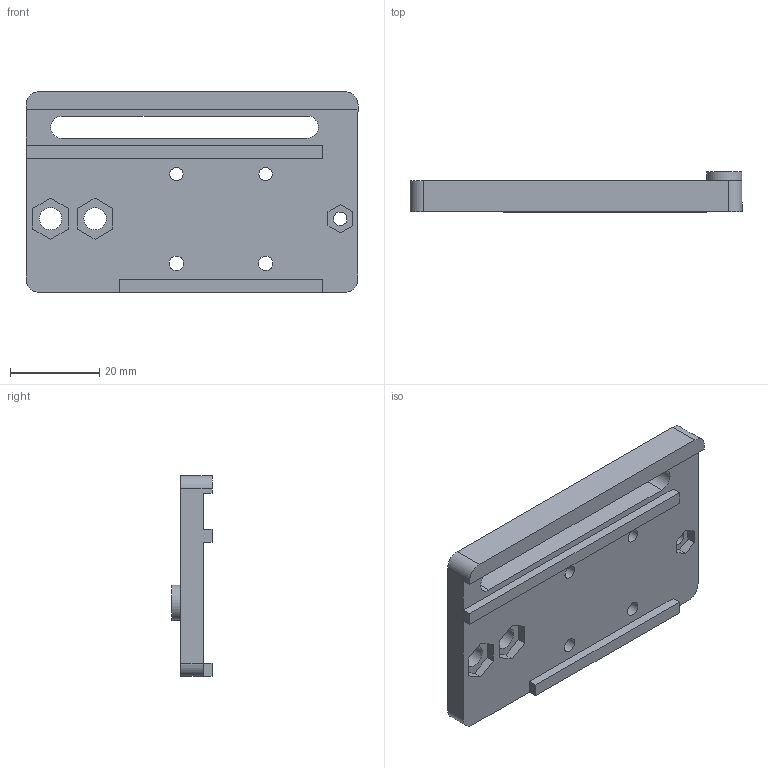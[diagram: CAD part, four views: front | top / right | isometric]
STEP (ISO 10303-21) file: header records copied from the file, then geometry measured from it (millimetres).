
FILE_DESCRIPTION(/* description */ (''),/* implementation_level */ '2;1');
FILE_NAME(/* name */ 'knife holder.step',/* time_stamp */ '2025-06-18T02:49:21-07:00',/* author */ (''),/* organization */ (''),/* preprocessor_version */ 'ST-DEVELOPER v20.1',/* originating_system */ 'Autodesk Translation Framework v14.10.0.0',/* authorisation */ '');
FILE_SCHEMA (('AUTOMOTIVE_DESIGN { 1 0 10303 214 3 1 1 }'));
Length unit declared in the file: millimetre
Products named in the file (1): knife holder
Bounding box: 74.4 x 9 x 45 mm (x, y, z)
Volume: 15829.4 mm3; surface area: 9122.7 mm2
Topology: 1 solids, 1 shells, 62 faces, 157 edges, 104 vertices
Faces by surface type: plane 44, cylinder 18
Full cylindrical faces by diameter (mm): 3 x3, 3.25 x2, 5 x2, 6 x4, 7.95 x1
Entity records: 1926 total; most frequent: CARTESIAN_POINT 324, DIRECTION 319, ORIENTED_EDGE 314, EDGE_CURVE 157, LINE 121, VECTOR 121, VERTEX_POINT 104, AXIS2_PLACEMENT_3D 99
